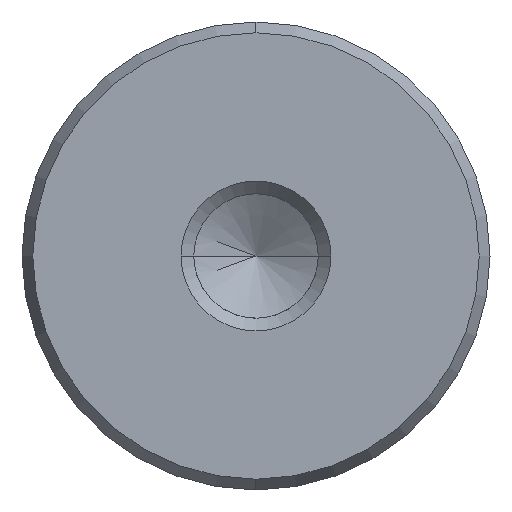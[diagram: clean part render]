
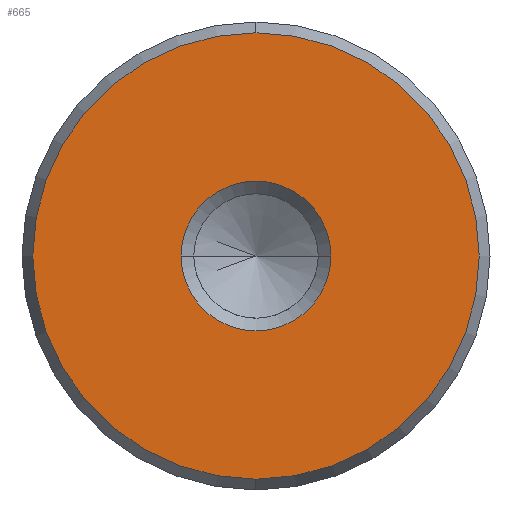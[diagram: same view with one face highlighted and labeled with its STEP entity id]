
A CAD part, left-side view. The second image highlights one B-rep face of the part: STEP entity #665.
In plain terms, the highlighted planar face has unit normal (-1, 0, 0).
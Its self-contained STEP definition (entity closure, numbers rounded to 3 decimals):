
#579=CARTESIAN_POINT('Vertex',(0.,0.,-11.923)) ;
#582=CARTESIAN_POINT('Axis2P3D Location',(0.,0.,0.)) ;
#586=CARTESIAN_POINT('Vertex',(0.,11.923,0.)) ;
#589=CARTESIAN_POINT('Axis2P3D Location',(0.,0.,0.)) ;
#593=CARTESIAN_POINT('Vertex',(0.,0.,11.923)) ;
#615=CARTESIAN_POINT('Axis2P3D Location',(0.,0.,0.)) ;
#619=CARTESIAN_POINT('Vertex',(0.,-11.923,0.)) ;
#622=CARTESIAN_POINT('Axis2P3D Location',(0.,0.,0.)) ;
#636=CARTESIAN_POINT('Axis2P3D Location',(0.,0.,0.)) ;
#647=CARTESIAN_POINT('Axis2P3D Location',(0.,0.,0.)) ;
#651=CARTESIAN_POINT('Vertex',(0.,4.,0.)) ;
#653=CARTESIAN_POINT('Vertex',(0.,-4.,0.)) ;
#656=CARTESIAN_POINT('Axis2P3D Location',(0.,0.,0.)) ;
#583=DIRECTION('Axis2P3D Direction',(1.,0.,-0.)) ;
#590=DIRECTION('Axis2P3D Direction',(1.,0.,-0.)) ;
#616=DIRECTION('Axis2P3D Direction',(1.,0.,-0.)) ;
#623=DIRECTION('Axis2P3D Direction',(1.,0.,-0.)) ;
#637=DIRECTION('Axis2P3D Direction',(1.,0.,-0.)) ;
#638=DIRECTION('Axis2P3D XDirection',(-0.,0.,-1.)) ;
#648=DIRECTION('Axis2P3D Direction',(1.,0.,-0.)) ;
#657=DIRECTION('Axis2P3D Direction',(1.,0.,-0.)) ;
#584=AXIS2_PLACEMENT_3D('Circle Axis2P3D',#582,#583,$) ;
#591=AXIS2_PLACEMENT_3D('Circle Axis2P3D',#589,#590,$) ;
#617=AXIS2_PLACEMENT_3D('Circle Axis2P3D',#615,#616,$) ;
#624=AXIS2_PLACEMENT_3D('Circle Axis2P3D',#622,#623,$) ;
#639=AXIS2_PLACEMENT_3D('Plane Axis2P3D',#636,#637,#638) ;
#649=AXIS2_PLACEMENT_3D('Circle Axis2P3D',#647,#648,$) ;
#658=AXIS2_PLACEMENT_3D('Circle Axis2P3D',#656,#657,$) ;
#642=ORIENTED_EDGE('',*,*,#588,.F.) ;
#643=ORIENTED_EDGE('',*,*,#626,.F.) ;
#644=ORIENTED_EDGE('',*,*,#621,.F.) ;
#645=ORIENTED_EDGE('',*,*,#595,.F.) ;
#662=ORIENTED_EDGE('',*,*,#655,.T.) ;
#663=ORIENTED_EDGE('',*,*,#660,.T.) ;
#664=FACE_BOUND('',#661,.T.) ;
#665=ADVANCED_FACE('720-25x140',(#646,#664),#640,.F.) ;
#585=CIRCLE('generated circle',#584,11.923) ;
#592=CIRCLE('generated circle',#591,11.923) ;
#618=CIRCLE('generated circle',#617,11.923) ;
#625=CIRCLE('generated circle',#624,11.923) ;
#650=CIRCLE('generated circle',#649,4.) ;
#659=CIRCLE('generated circle',#658,4.) ;
#588=EDGE_CURVE('',#580,#587,#585,.T.) ;
#595=EDGE_CURVE('',#587,#594,#592,.T.) ;
#621=EDGE_CURVE('',#594,#620,#618,.T.) ;
#626=EDGE_CURVE('',#620,#580,#625,.T.) ;
#655=EDGE_CURVE('',#652,#654,#650,.T.) ;
#660=EDGE_CURVE('',#654,#652,#659,.T.) ;
#641=EDGE_LOOP('',(#642,#643,#644,#645)) ;
#661=EDGE_LOOP('',(#662,#663)) ;
#646=FACE_OUTER_BOUND('',#641,.T.) ;
#640=PLANE('Plane',#639) ;
#580=VERTEX_POINT('',#579) ;
#587=VERTEX_POINT('',#586) ;
#594=VERTEX_POINT('',#593) ;
#620=VERTEX_POINT('',#619) ;
#652=VERTEX_POINT('',#651) ;
#654=VERTEX_POINT('',#653) ;
